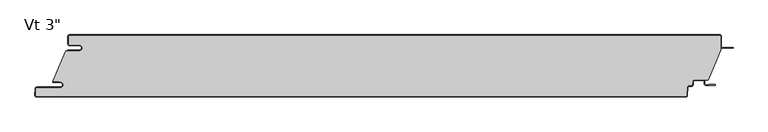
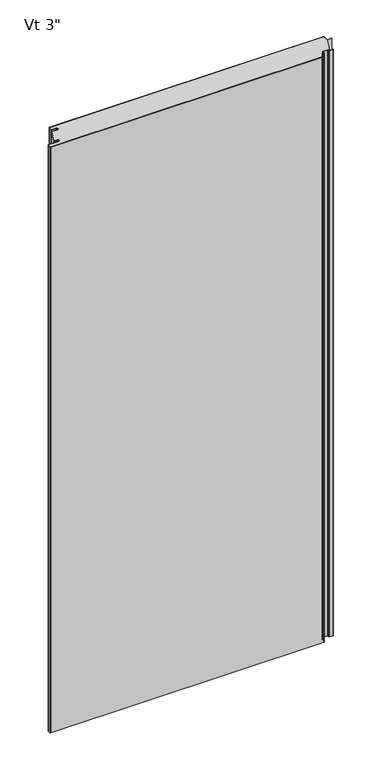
"""IFC4 building model written with IfcOpenShell, lengths in millimetres: plate geometry."""

import ifcopenshell
import ifcopenshell.guid

model = None  # the IFC model being written
_history = None  # IfcOwnerHistory: only IFC2X3 demands one
_inside = {}  # id of a spatial element -> (the spatial element, [elements in it])
_under = {}  # id of a project, library or spatial element -> (it, [spatial elements below it])
_declared = {}  # id of a project -> (the project, [libraries it declares])
_typed = {}  # id of a type object -> (the type object, [elements of that type])
_made_of = {}  # id of a material, layer set ... -> (it, [elements and type objects made of it])


def new_model(schema):
    """Start an empty IFC model of exactly this schema.

    Asked for "IFC4X3", IfcOpenShell would pick the latest addendum, in which some entities
    have other attributes; the version numbers below select the first issue.
    IFC2X3 requires an IfcOwnerHistory on every rooted entity: one is made here for all.
    """
    global model, _history
    if schema == "IFC4X3":
        model = ifcopenshell.file(schema_version=(4, 3, 0, 0))
    else:
        model = ifcopenshell.file(schema=schema)
    _inside.clear()
    _under.clear()
    _declared.clear()
    _typed.clear()
    _made_of.clear()
    _history = None
    if model.schema == "IFC2X3":
        org = make("IfcOrganization", Name="unknown")
        user = make(
            "IfcPersonAndOrganization",
            ThePerson=make("IfcPerson", FamilyName="unknown"),
            TheOrganization=org,
        )
        app = make(
            "IfcApplication",
            ApplicationDeveloper=org,
            Version="unknown",
            ApplicationFullName="unknown",
            ApplicationIdentifier="unknown",
        )
        _history = make(
            "IfcOwnerHistory",
            OwningUser=user,
            OwningApplication=app,
            ChangeAction="ADDED",
            CreationDate=0,
        )
    return model


def make(cls, **values):
    """One entity of the class cls with the attributes given. An attribute that is None is left unset."""
    return model.create_entity(
        cls, **{name: value for name, value in values.items() if value is not None}
    )


def rooted(cls, **values):
    """An entity with a GlobalId (a new one), such as an element, a storey or a relation."""
    return make(cls, GlobalId=ifcopenshell.guid.new(), OwnerHistory=_history, **values)


def si_unit(unit_type, name, prefix=None):
    """IfcSIUnit, for example si_unit("LENGTHUNIT", "METRE", prefix="MILLI")."""
    return make("IfcSIUnit", UnitType=unit_type, Prefix=prefix, Name=name)


def assignment(units):
    """IfcUnitAssignment: the units of a project."""
    return None if units is None else make("IfcUnitAssignment", Units=units)


def point(xyz):
    """IfcCartesianPoint."""
    return None if xyz is None else make("IfcCartesianPoint", Coordinates=xyz)


def direction(xyz):
    """IfcDirection."""
    return None if xyz is None else make("IfcDirection", DirectionRatios=xyz)


def frame(location, z_axis=None, x_axis=None):
    """IfcAxis2Placement3D, a coordinate frame: its origin and axes. An axis left out is left unset."""
    return make(
        "IfcAxis2Placement3D",
        Location=point(location),
        Axis=direction(z_axis),
        RefDirection=direction(x_axis),
    )


def frame_2d(location, x_axis=None):
    """IfcAxis2Placement2D, a coordinate frame in the plane: its origin and x axis."""
    return make(
        "IfcAxis2Placement2D", Location=point(location), RefDirection=direction(x_axis)
    )


def origin():
    """The frame at (0, 0, 0) with its axes left unset."""
    return frame((0.0, 0.0, 0.0))


def origin_with_axes():
    """The frame at (0, 0, 0) with the z axis (0, 0, 1) and the x axis (1, 0, 0) written out."""
    return frame((0.0, 0.0, 0.0), z_axis=(0.0, 0.0, 1.0), x_axis=(1.0, 0.0, 0.0))


def place(relative_to, where):
    """IfcLocalPlacement: puts the frame where relative to a parent placement (None: the world)."""
    return make(
        "IfcLocalPlacement", PlacementRelTo=relative_to, RelativePlacement=where
    )


def context(
    kind, dimensions, precision=None, world=None, true_north=None, identifier=None
):
    """IfcGeometricRepresentationContext, for example the 3D "Model" context."""
    return make(
        "IfcGeometricRepresentationContext",
        ContextIdentifier=identifier,
        ContextType=kind,
        CoordinateSpaceDimension=dimensions,
        Precision=precision,
        WorldCoordinateSystem=world,
        TrueNorth=true_north,
    )


def project(units=None, contexts=None):
    """IfcProject with its units and contexts."""
    return rooted(
        "IfcProject",
        Name="project",
        RepresentationContexts=contexts,
        UnitsInContext=assignment(units),
    )


def spatial(cls, under=None, at=None, **own):
    """A site, building, storey or space (cls), placed at a placement, below another one or the project."""
    s = rooted(cls, ObjectPlacement=at, **own)
    if under is not None:
        _under.setdefault(under.id(), (under, []))[1].append(s)
    return s


def polyline(points):
    """IfcPolyline through the points."""
    return make("IfcPolyline", Points=[point(p) for p in points])


def circle_curve(where, radius):
    """IfcCircle in the frame where."""
    return make("IfcCircle", Position=where, Radius=radius)


def ellipse_curve(where, semi_axis1, semi_axis2):
    """IfcEllipse in the frame where."""
    return make(
        "IfcEllipse", Position=where, SemiAxis1=semi_axis1, SemiAxis2=semi_axis2
    )


def trimmed(basis, trim1, trim2, sense, master):
    """IfcTrimmedCurve: the piece of a basis curve between two trims."""
    return make(
        "IfcTrimmedCurve",
        BasisCurve=basis,
        Trim1=trim1,
        Trim2=trim2,
        SenseAgreement=sense,
        MasterRepresentation=master,
    )


def segment(curve, same_sense, transition):
    """IfcCompositeCurveSegment."""
    return make(
        "IfcCompositeCurveSegment",
        Transition=transition,
        SameSense=same_sense,
        ParentCurve=curve,
    )


def composite_curve(segments, self_intersect=None):
    """IfcCompositeCurve: segments joined end to end."""
    return make("IfcCompositeCurve", Segments=segments, SelfIntersect=self_intersect)


def outline(outer, holes=None, kind="AREA"):
    """IfcArbitraryClosedProfileDef: a profile drawn as a closed curve; with holes, ...WithVoids."""
    if holes is None:
        return make("IfcArbitraryClosedProfileDef", ProfileType=kind, OuterCurve=outer)
    return make(
        "IfcArbitraryProfileDefWithVoids",
        ProfileType=kind,
        OuterCurve=outer,
        InnerCurves=holes,
    )


def extrude(swept, where, along, depth):
    """IfcExtrudedAreaSolid: the profile swept, set in the frame where, extruded along a direction by depth."""
    return make(
        "IfcExtrudedAreaSolid",
        SweptArea=swept,
        Position=where,
        ExtrudedDirection=direction(along),
        Depth=depth,
    )


def shape(context_of_items, identifier, shape_type, items):
    """IfcShapeRepresentation: the items that make up one representation, for example the "Body"."""
    return make(
        "IfcShapeRepresentation",
        ContextOfItems=context_of_items,
        RepresentationIdentifier=identifier,
        RepresentationType=shape_type,
        Items=items,
    )


def source(mapping_origin, context_of_items, identifier, shape_type, items):
    """IfcRepresentationMap: a shape defined once, which mapped items show again and again."""
    return make(
        "IfcRepresentationMap",
        MappingOrigin=mapping_origin,
        MappedRepresentation=shape(context_of_items, identifier, shape_type, items),
    )


def transform(
    local_origin,
    x_axis=None,
    y_axis=None,
    z_axis=None,
    scale=None,
    scale2=None,
    scale3=None,
    uniform=True,
):
    """IfcCartesianTransformationOperator3D, or its non-uniform kind. x_axis, y_axis, z_axis: its Axis1, 2, 3."""
    if uniform:
        return make(
            "IfcCartesianTransformationOperator3D",
            Axis1=direction(x_axis),
            Axis2=direction(y_axis),
            LocalOrigin=point(local_origin),
            Scale=scale,
            Axis3=direction(z_axis),
        )
    return make(
        "IfcCartesianTransformationOperator3DnonUniform",
        Axis1=direction(x_axis),
        Axis2=direction(y_axis),
        LocalOrigin=point(local_origin),
        Scale=scale,
        Axis3=direction(z_axis),
        Scale2=scale2,
        Scale3=scale3,
    )


def mapped(mapping_source, mapping_target):
    """IfcMappedItem: shows the shape of a source again, moved by a transform."""
    return make(
        "IfcMappedItem", MappingSource=mapping_source, MappingTarget=mapping_target
    )


def made_of(thing, what):
    """Note that an element or type object is made of a material, layer set ...; save() writes the relation."""
    if what is not None:
        _made_of.setdefault(what.id(), (what, []))[1].append(thing)
    return thing


def element(
    cls,
    number,
    at=None,
    inside=None,
    cuts=None,
    type_object=None,
    material=None,
    context=None,
    identifier="Body",
    shape_type=None,
    held_by="IfcProductDefinitionShape",
    body=None,
    shapes=None,
    **own,
):
    """One element of the class cls, such as IfcWall. Its Tag is "e" and its number.

    at: its placement. inside: the storey or other place that contains it. cuts: it is an
    opening in that element (IfcRelVoidsElement). A single representation is given by context,
    identifier, shape_type and body (its items); several are given by shapes. held_by: the class
    of the entity that holds the representations. save() writes the other relations.
    """
    e = rooted(cls, Tag="e%d" % number, ObjectPlacement=at, **own)
    if body is not None:
        shapes = [shape(context, identifier, shape_type, body)]
    if shapes is not None:
        e.Representation = make(held_by, Representations=shapes)
    if inside is not None:
        _inside.setdefault(inside.id(), (inside, []))[1].append(e)
    if cuts is not None:
        rooted(
            "IfcRelVoidsElement", RelatingBuildingElement=cuts, RelatedOpeningElement=e
        )
    if type_object is not None:
        _typed.setdefault(type_object.id(), (type_object, []))[1].append(e)
    return made_of(e, material)


def aggregate(whole, parts):
    """IfcRelAggregates: a whole, such as a stair, and the parts it consists of."""
    return rooted("IfcRelAggregates", RelatingObject=whole, RelatedObjects=parts)


def save(model, path):
    """Write the relations noted so far, then the file.

    IfcRelAggregates (storeys below a building ...), IfcRelContainedInSpatialStructure (elements
    in a storey), IfcRelDefinesByType, IfcRelAssociatesMaterial and IfcRelDeclares: one each for
    every whole, place, type object, material and project.
    """
    for whole, parts in _under.values():
        aggregate(whole, parts)
    for where, things in _inside.values():
        rooted(
            "IfcRelContainedInSpatialStructure",
            RelatedElements=things,
            RelatingStructure=where,
        )
    for kind, things in _typed.values():
        rooted("IfcRelDefinesByType", RelatedObjects=things, RelatingType=kind)
    for what, things in _made_of.values():
        rooted("IfcRelAssociatesMaterial", RelatedObjects=things, RelatingMaterial=what)
    for by, libraries in _declared.values():
        rooted("IfcRelDeclares", RelatingContext=by, RelatedDefinitions=libraries)
    model.write(path)


def plane_surface(at):
    """IfcPlane: the flat surface through the origin of the frame at, square to its z axis."""
    return make("IfcPlane", Position=at)


def cylinder_surface(at, radius):
    """IfcCylindricalSurface: all points at the distance radius from the z axis of the frame at."""
    return make("IfcCylindricalSurface", Position=at, Radius=radius)


def revolved_surface(curve, axis_point, axis_direction):
    """IfcSurfaceOfRevolution: the curve turned about the line through axis_point along axis_direction."""
    return make(
        "IfcSurfaceOfRevolution",
        SweptCurve=make("IfcArbitraryOpenProfileDef", ProfileType="CURVE", Curve=curve),
        AxisPosition=make("IfcAxis1Placement", Location=point(axis_point), Axis=direction(axis_direction)),
    )


def extruded_surface(curve, direction_of_extrusion, depth):
    """IfcSurfaceOfLinearExtrusion: the curve pushed along a direction by depth."""
    return make(
        "IfcSurfaceOfLinearExtrusion",
        SweptCurve=make("IfcArbitraryOpenProfileDef", ProfileType="CURVE", Curve=curve),
        ExtrudedDirection=direction(direction_of_extrusion),
        Depth=depth,
    )


def advanced_brep(points, edges, surfaces, faces):
    """IfcAdvancedBrep: a solid bounded by faces that lie on surfaces and meet in shared edges.

    An edge is (start, end): straight between two places in points (the first is 0);
    or (start, end, curve); or (start, end, curve, False) where it runs against its curve.
    A face is (place in surfaces, loops), or (place, loops, False) where it looks against
    its surface's normal. A loop lists edges by number (the first is 1), with a minus sign
    where the edge is run from its end to its start. The first loop is the outer one.
    """
    corners = [point(p) for p in points]
    vertices = [make("IfcVertexPoint", VertexGeometry=c) for c in corners]
    made = []
    for start, end, *more in edges:
        made.append(
            make(
                "IfcEdgeCurve",
                EdgeStart=vertices[start],
                EdgeEnd=vertices[end],
                EdgeGeometry=more[0] if more else make("IfcPolyline", Points=[corners[start], corners[end]]),
                SameSense=more[1] if len(more) > 1 else True,
            )
        )
    hull = []
    for where, loops, *sense in faces:
        bounds = []
        for j, loop in enumerate(loops):
            ring = [make("IfcOrientedEdge", EdgeElement=made[abs(k) - 1], Orientation=k > 0) for k in loop]
            bounds.append(
                make(
                    "IfcFaceOuterBound" if j == 0 else "IfcFaceBound",
                    Bound=make("IfcEdgeLoop", EdgeList=ring),
                    Orientation=True,
                )
            )
        hull.append(make("IfcAdvancedFace", Bounds=bounds, FaceSurface=surfaces[where], SameSense=sense[0] if sense else True))
    return make("IfcAdvancedBrep", Outer=make("IfcClosedShell", CfsFaces=hull))


def plate_fcef75d7(model_context):
    return source(origin(), model_context, "Body", "SolidModel", [
        extrude(outline(composite_curve([segment(polyline([(-514.35625, -16.4625), (-530.23125, -16.4625)]), True, "CONTINUOUS"), segment(trimmed(circle_curve(frame_2d((-530.23125, -15.08125)), 1.38125), [point((-530.23125, -16.4625))], [point((-531.6125, -15.08125))], False, "CARTESIAN"), True, "CONTINUOUS"), segment(polyline([(-531.6125, -15.08125), (-531.6125, -2.38125)]), True, "CONTINUOUS"), segment(trimmed(circle_curve(frame_2d((-530.23125, -2.38125)), 1.38125), [point((-531.6125, -2.38125))], [point((-530.23125, -1.0))], False, "CARTESIAN"), True, "CONTINUOUS"), segment(polyline([(-530.23125, -1.0), (530.21875, -1.0)]), True, "CONTINUOUS"), segment(trimmed(circle_curve(frame_2d((530.21875, -2.38125)), 1.38125), [point((530.21875, -1.0))], [point((531.6, -2.38125))], False, "CARTESIAN"), True, "CONTINUOUS"), segment(polyline([(531.6, -2.38125), (531.6, -24.9057308), (510.7830434, -73.6125), (488.3415783, -73.6125)]), True, "CONTINUOUS"), segment(trimmed(circle_curve(frame_2d((488.3415783, -76.2)), 2.5875), [point((488.3415783, -73.6125))], [point((485.7576244, -76.0645807))], True, "CARTESIAN"), True, "CONTINUOUS"), segment(polyline([(485.7576244, -76.0645807), (485.4555481, -81.828539)]), True, "CONTINUOUS"), segment(trimmed(circle_curve(frame_2d((484.0761911, -81.75625)), 1.38125), [point((485.4555481, -81.828539))], [point((484.0761911, -83.1375))], False, "CARTESIAN"), True, "CONTINUOUS"), segment(polyline([(484.0761911, -83.1375), (479.4448847, -83.1375)]), True, "CONTINUOUS"), segment(trimmed(circle_curve(frame_2d((479.4448847, -85.725)), 2.5875), [point((479.4448847, -83.1375))], [point((476.8609307, -85.5895807))], True, "CARTESIAN"), True, "CONTINUOUS"), segment(polyline([(476.8609307, -85.5895807), (476.1428677, -99.291039)]), True, "CONTINUOUS"), segment(trimmed(circle_curve(frame_2d((474.7635107, -99.21875)), 1.38125), [point((476.1428677, -99.291039))], [point((474.7635107, -100.6))], False, "CARTESIAN"), True, "CONTINUOUS"), segment(polyline([(474.7635107, -100.6), (-584.0924535, -100.6)]), True, "CONTINUOUS"), segment(trimmed(circle_curve(frame_2d((-584.0924535, -99.21875)), 1.38125), [point((-584.0924535, -100.6))], [point((-585.4718106, -99.146461))], False, "CARTESIAN"), True, "CONTINUOUS"), segment(polyline([(-585.4718106, -99.146461), (-584.8894291, -88.033961)]), True, "CONTINUOUS"), segment(trimmed(circle_curve(frame_2d((-583.5100721, -88.10625)), 1.38125), [point((-584.8894291, -88.033961))], [point((-583.5100721, -86.725))], False, "CARTESIAN"), True, "CONTINUOUS"), segment(polyline([(-583.5100721, -86.725), (-545.3267674, -86.725)]), True, "CONTINUOUS"), segment(trimmed(circle_curve(frame_2d((-545.3267674, -81.75625)), 4.96875), [point((-545.3267674, -86.725))], [point((-545.3267674, -76.7875))], True, "CARTESIAN"), True, "CONTINUOUS"), segment(polyline([(-545.3267674, -76.7875), (-546.9142674, -76.99375), (-546.9142674, -76.2), (-556.425, -76.2), (-556.425, -74.6157227), (-536.5385922, -26.4), (-514.35625, -26.4)]), True, "CONTINUOUS"), segment(trimmed(circle_curve(frame_2d((-514.35625, -21.43125)), 4.96875), [point((-514.35625, -26.4))], [point((-514.35625, -16.4625))], True, "CARTESIAN"), True, "CONTINUOUS")], self_intersect=False)), origin_with_axes(), (0.0, 0.0, 1.0), 2400.0),
        extrude(outline(composite_curve([segment(polyline([(-532.6125, -25.4), (-514.35625, -25.4)]), True, "CONTINUOUS"), segment(trimmed(circle_curve(frame_2d((-514.35625, -21.43125)), 3.96875), [point((-514.35625, -25.4))], [point((-514.35625, -17.4625))], True, "CARTESIAN"), True, "CONTINUOUS"), segment(polyline([(-514.35625, -17.4625), (-530.23125, -17.4625)]), True, "CONTINUOUS"), segment(trimmed(circle_curve(frame_2d((-530.23125, -15.08125)), 2.38125), [point((-530.23125, -17.4625))], [point((-532.6125, -15.08125))], False, "CARTESIAN"), True, "CONTINUOUS"), segment(polyline([(-532.6125, -15.08125), (-532.6125, -2.38125)]), True, "CONTINUOUS"), segment(trimmed(circle_curve(frame_2d((-530.23125, -2.38125)), 2.38125), [point((-532.6125, -2.38125))], [point((-530.23125, 0.0))], False, "CARTESIAN"), True, "CONTINUOUS"), segment(polyline([(-530.23125, 0.0), (530.21875, 0.0)]), True, "CONTINUOUS"), segment(trimmed(circle_curve(frame_2d((530.21875, -2.38125)), 2.38125), [point((530.21875, 0.0))], [point((532.6, -2.38125))], False, "CARTESIAN"), True, "CONTINUOUS"), segment(polyline([(532.6, -2.38125), (532.6, -19.446875)]), True, "CONTINUOUS"), segment(trimmed(circle_curve(frame_2d((534.1875, -19.446875)), 1.5875), [point((532.6, -19.446875))], [point((534.1875, -21.034375))], True, "CARTESIAN"), True, "CONTINUOUS"), segment(polyline([(534.1875, -21.034375), (551.65, -21.034375), (551.65, -22.034375), (534.1875, -22.034375)]), True, "CONTINUOUS"), segment(trimmed(circle_curve(frame_2d((534.1875, -19.446875)), 2.5875), [point((534.1875, -22.034375))], [point((531.6, -19.446875))], False, "CARTESIAN"), True, "CONTINUOUS"), segment(polyline([(531.6, -19.446875), (531.6, -2.38125)]), True, "CONTINUOUS"), segment(trimmed(circle_curve(frame_2d((530.21875, -2.38125)), 1.38125), [point((531.6, -2.38125))], [point((530.21875, -1.0))], True, "CARTESIAN"), True, "CONTINUOUS"), segment(polyline([(530.21875, -1.0), (-530.23125, -1.0)]), True, "CONTINUOUS"), segment(trimmed(circle_curve(frame_2d((-530.23125, -2.38125)), 1.38125), [point((-530.23125, -1.0))], [point((-531.6125, -2.38125))], True, "CARTESIAN"), True, "CONTINUOUS"), segment(polyline([(-531.6125, -2.38125), (-531.6125, -15.08125)]), True, "CONTINUOUS"), segment(trimmed(circle_curve(frame_2d((-530.23125, -15.08125)), 1.38125), [point((-531.6125, -15.08125))], [point((-530.23125, -16.4625))], True, "CARTESIAN"), True, "CONTINUOUS"), segment(polyline([(-530.23125, -16.4625), (-514.35625, -16.4625)]), True, "CONTINUOUS"), segment(trimmed(circle_curve(frame_2d((-514.35625, -21.43125)), 4.96875), [point((-514.35625, -16.4625))], [point((-514.35625, -26.4))], False, "CARTESIAN"), True, "CONTINUOUS"), segment(polyline([(-514.35625, -26.4), (-532.6125, -26.4), (-532.6125, -25.4)]), True, "CONTINUOUS")], self_intersect=False)), origin_with_axes(), (0.0, 0.0, 1.0), 2400.0),
        advanced_brep(
        [(-556.6377049, -76.2, 2400.0), (-556.6377049, -77.7875, 2400.0), (-545.3267674, -77.7875, 2400.0), (-545.3267674, -85.725, 2400.0), (-583.5100721, -85.725, 2400.0), (-585.8880586, -87.981625, 2400.0), (-586.4704401, -99.094125, 2400.0), (-584.0924535, -101.6, 2400.0), (474.7635107, -101.6, 2400.0), (477.1414973, -99.343375, 2400.0), (477.8595603, -85.6419167, 2400.0), (479.4448847, -84.1375, 2400.0), (484.0761911, -84.1375, 2400.0), (486.4541776, -81.880875, 2400.0), (486.7562539, -76.1169167, 2400.0), (488.3415783, -74.6125, 2400.0), (503.2169826, -74.6125, 2400.0), (504.8044826, -76.2, 2400.0), (504.8044826, -80.3671875, 2400.0), (507.1857326, -82.7484375, 2400.0), (521.6773532, -82.7484375, 2400.0), (521.6773532, -80.9546875, 2400.0), (511.9482326, -80.9546875, 2400.0), (511.9482326, -81.7484375, 2400.0), (507.1857326, -81.7484375, 2400.0), (505.8044826, -80.3671875, 2400.0), (505.8044826, -76.2, 2400.0), (503.2169826, -73.6125, 2400.0), (488.3415783, -73.6125, 2400.0), (485.7576244, -76.0645807, 2400.0), (485.4555481, -81.828539, 2400.0), (484.0761911, -83.1375, 2400.0), (479.4448847, -83.1375, 2400.0), (476.8609307, -85.5895807, 2400.0), (476.1428677, -99.291039, 2400.0), (474.7635107, -100.6, 2400.0), (-584.0924535, -100.6, 2400.0), (-585.4718106, -99.146461, 2400.0), (-584.8894291, -88.033961, 2400.0), (-583.5100721, -86.725, 2400.0), (-545.3267674, -86.725, 2400.0), (-545.3267674, -76.7875, 2400.0), (-546.9142674, -76.99375, 2400.0), (-546.9142674, -76.2, 2400.0), (-556.6377049, -76.2, 0.0), (-546.9142674, -76.2, 0.0), (-546.9142674, -76.99375, 0.0), (-545.3267674, -76.7875, 0.0), (-545.3267674, -86.725, 0.0), (-583.5100721, -86.725, 0.0), (-584.8894291, -88.033961, 0.0), (-585.4718106, -99.146461, 0.0), (-584.0924535, -100.6, 0.0), (474.7635107, -100.6, 0.0), (476.1428677, -99.291039, 0.0), (476.8609307, -85.5895807, 0.0), (479.4448847, -83.1375, 0.0), (484.0761911, -83.1375, 0.0), (485.4555481, -81.828539, 0.0), (485.7576244, -76.0645807, 0.0), (488.3415783, -73.6125, 0.0), (503.2169826, -73.6125, 0.0), (505.8044826, -76.2, 0.0), (505.8044826, -80.3671875, 0.0), (507.1857326, -81.7484375, 0.0), (511.9482326, -81.7484375, 0.0), (511.9482326, -80.9546875, 0.0), (521.6773532, -80.9546875, 0.0), (521.6773532, -82.7484375, 0.0), (507.1857326, -82.7484375, 0.0), (504.8044826, -80.3671875, 0.0), (504.8044826, -76.2, 0.0), (503.2169826, -74.6125, 0.0), (488.3415783, -74.6125, 0.0), (486.7562539, -76.1169167, 0.0), (486.4541776, -81.880875, 0.0), (484.0761911, -84.1375, 0.0), (479.4448847, -84.1375, 0.0), (477.8595603, -85.6419167, 0.0), (477.1414973, -99.343375, 0.0), (474.7635107, -101.6, 0.0), (-584.0924535, -101.6, 0.0), (-586.4704401, -99.094125, 0.0), (-585.8880586, -87.981625, 0.0), (-583.5100721, -85.725, 0.0), (-545.3267674, -85.725, 0.0), (-545.3267674, -77.7875, 0.0), (-556.6377049, -77.7875, 0.0)],
        [
            (0, 1, circle_curve(frame((-556.6377049, -76.99375, 2400.0), z_axis=(0.0, 0.0, 1.0), x_axis=(-1.0, 0.0, 0.0)), 0.79375)),
            (1, 2),
            (2, 3, circle_curve(frame((-545.3267674, -81.75625, 2400.0), z_axis=(0.0, 0.0, -1.0), x_axis=(-1.0, 0.0, 0.0)), 3.96875)),
            (3, 4),
            (4, 5, circle_curve(frame((-583.5100721, -88.10625, 2400.0), z_axis=(0.0, 0.0, 1.0), x_axis=(-1.0, 0.0, 0.0)), 2.38125)),
            (5, 6),
            (6, 7, circle_curve(frame((-584.0924535, -99.21875, 2400.0), z_axis=(0.0, 0.0, 1.0), x_axis=(-1.0, 0.0, 0.0)), 2.38125)),
            (7, 8),
            (8, 9, circle_curve(frame((474.7635107, -99.21875, 2400.0), z_axis=(0.0, 0.0, 1.0), x_axis=(-1.0, 0.0, 0.0)), 2.38125)),
            (9, 10),
            (10, 11, circle_curve(frame((479.4448847, -85.725, 2400.0), z_axis=(0.0, 0.0, -1.0), x_axis=(-1.0, 0.0, 0.0)), 1.5875)),
            (11, 12),
            (12, 13, circle_curve(frame((484.0761911, -81.75625, 2400.0), z_axis=(0.0, 0.0, 1.0), x_axis=(-1.0, 0.0, 0.0)), 2.38125)),
            (13, 14),
            (14, 15, circle_curve(frame((488.3415783, -76.2, 2400.0), z_axis=(0.0, 0.0, -1.0), x_axis=(-1.0, 0.0, 0.0)), 1.5875)),
            (15, 16),
            (16, 17, circle_curve(frame((503.2169826, -76.2, 2400.0), z_axis=(0.0, 0.0, -1.0), x_axis=(-1.0, 0.0, 0.0)), 1.5875)),
            (17, 18),
            (18, 19, circle_curve(frame((507.1857326, -80.3671875, 2400.0), z_axis=(0.0, 0.0, 1.0), x_axis=(-1.0, 0.0, 0.0)), 2.38125)),
            (19, 20),
            (20, 21, ellipse_curve(frame((521.6773532, -81.8515625, 2400.0), z_axis=(0.0, 0.0, 1.0), x_axis=(0.0, 1.0, 0.0)), 0.896875, 0.7852275)),
            (21, 22),
            (22, 23),
            (23, 24),
            (24, 25, circle_curve(frame((507.1857326, -80.3671875, 2400.0), z_axis=(0.0, 0.0, -1.0), x_axis=(-1.0, 0.0, 0.0)), 1.38125)),
            (25, 26),
            (26, 27, circle_curve(frame((503.2169826, -76.2, 2400.0), z_axis=(0.0, 0.0, 1.0), x_axis=(-1.0, 0.0, 0.0)), 2.5875)),
            (27, 28),
            (28, 29, circle_curve(frame((488.3415783, -76.2, 2400.0), z_axis=(0.0, 0.0, 1.0), x_axis=(-1.0, 0.0, 0.0)), 2.5875)),
            (29, 30),
            (30, 31, circle_curve(frame((484.0761911, -81.75625, 2400.0), z_axis=(0.0, 0.0, -1.0), x_axis=(-1.0, 0.0, 0.0)), 1.38125)),
            (31, 32),
            (32, 33, circle_curve(frame((479.4448847, -85.725, 2400.0), z_axis=(0.0, 0.0, 1.0), x_axis=(-1.0, 0.0, 0.0)), 2.5875)),
            (33, 34),
            (34, 35, circle_curve(frame((474.7635107, -99.21875, 2400.0), z_axis=(0.0, 0.0, -1.0), x_axis=(-1.0, 0.0, 0.0)), 1.38125)),
            (35, 36),
            (36, 37, circle_curve(frame((-584.0924535, -99.21875, 2400.0), z_axis=(0.0, 0.0, -1.0), x_axis=(-1.0, 0.0, 0.0)), 1.38125)),
            (37, 38),
            (38, 39, circle_curve(frame((-583.5100721, -88.10625, 2400.0), z_axis=(0.0, 0.0, -1.0), x_axis=(-1.0, 0.0, 0.0)), 1.38125)),
            (39, 40),
            (40, 41, circle_curve(frame((-545.3267674, -81.75625, 2400.0), z_axis=(0.0, 0.0, 1.0), x_axis=(-1.0, 0.0, 0.0)), 4.96875)),
            (41, 42),
            (42, 43),
            (43, 0),
            (44, 45),
            (45, 46),
            (46, 47),
            (47, 48, circle_curve(frame((-545.3267674, -81.75625, 0.0), z_axis=(0.0, 0.0, -1.0), x_axis=(-1.0, 0.0, 0.0)), 4.96875)),
            (48, 49),
            (49, 50, circle_curve(frame((-583.5100721, -88.10625, 0.0), z_axis=(0.0, 0.0, 1.0), x_axis=(-1.0, 0.0, 0.0)), 1.38125)),
            (50, 51),
            (51, 52, circle_curve(frame((-584.0924535, -99.21875, 0.0), z_axis=(0.0, 0.0, 1.0), x_axis=(-1.0, 0.0, 0.0)), 1.38125)),
            (52, 53),
            (53, 54, circle_curve(frame((474.7635107, -99.21875, 0.0), z_axis=(0.0, 0.0, 1.0), x_axis=(-1.0, 0.0, 0.0)), 1.38125)),
            (54, 55),
            (55, 56, circle_curve(frame((479.4448847, -85.725, 0.0), z_axis=(0.0, 0.0, -1.0), x_axis=(-1.0, 0.0, 0.0)), 2.5875)),
            (56, 57),
            (57, 58, circle_curve(frame((484.0761911, -81.75625, 0.0), z_axis=(0.0, 0.0, 1.0), x_axis=(-1.0, 0.0, 0.0)), 1.38125)),
            (58, 59),
            (59, 60, circle_curve(frame((488.3415783, -76.2, 0.0), z_axis=(0.0, 0.0, -1.0), x_axis=(-1.0, 0.0, 0.0)), 2.5875)),
            (60, 61),
            (61, 62, circle_curve(frame((503.2169826, -76.2, 0.0), z_axis=(0.0, 0.0, -1.0), x_axis=(-1.0, 0.0, 0.0)), 2.5875)),
            (62, 63),
            (63, 64, circle_curve(frame((507.1857326, -80.3671875, 0.0), z_axis=(0.0, 0.0, 1.0), x_axis=(-1.0, 0.0, 0.0)), 1.38125)),
            (64, 65),
            (65, 66),
            (66, 67),
            (67, 68, ellipse_curve(frame((521.6773532, -81.8515625, 0.0), z_axis=(0.0, 0.0, -1.0), x_axis=(0.0, 1.0, 0.0)), 0.896875, 0.7852275)),
            (68, 69),
            (69, 70, circle_curve(frame((507.1857326, -80.3671875, 0.0), z_axis=(0.0, 0.0, -1.0), x_axis=(-1.0, 0.0, 0.0)), 2.38125)),
            (70, 71),
            (71, 72, circle_curve(frame((503.2169826, -76.2, 0.0), z_axis=(0.0, 0.0, 1.0), x_axis=(-1.0, 0.0, 0.0)), 1.5875)),
            (72, 73),
            (73, 74, circle_curve(frame((488.3415783, -76.2, 0.0), z_axis=(0.0, 0.0, 1.0), x_axis=(-1.0, 0.0, 0.0)), 1.5875)),
            (74, 75),
            (75, 76, circle_curve(frame((484.0761911, -81.75625, 0.0), z_axis=(0.0, 0.0, -1.0), x_axis=(-1.0, 0.0, 0.0)), 2.38125)),
            (76, 77),
            (77, 78, circle_curve(frame((479.4448847, -85.725, 0.0), z_axis=(0.0, 0.0, 1.0), x_axis=(-1.0, 0.0, 0.0)), 1.5875)),
            (78, 79),
            (79, 80, circle_curve(frame((474.7635107, -99.21875, 0.0), z_axis=(0.0, 0.0, -1.0), x_axis=(-1.0, 0.0, 0.0)), 2.38125)),
            (80, 81),
            (81, 82, circle_curve(frame((-584.0924535, -99.21875, 0.0), z_axis=(0.0, 0.0, -1.0), x_axis=(-1.0, 0.0, 0.0)), 2.38125)),
            (82, 83),
            (83, 84, circle_curve(frame((-583.5100721, -88.10625, 0.0), z_axis=(0.0, 0.0, -1.0), x_axis=(-1.0, 0.0, 0.0)), 2.38125)),
            (84, 85),
            (85, 86, circle_curve(frame((-545.3267674, -81.75625, 0.0), z_axis=(0.0, 0.0, 1.0), x_axis=(-1.0, 0.0, 0.0)), 3.96875)),
            (86, 87),
            (87, 44, circle_curve(frame((-556.6377049, -76.99375, 0.0), z_axis=(0.0, 0.0, -1.0), x_axis=(-1.0, 0.0, 0.0)), 0.79375)),
            (43, 45),
            (44, 0),
            (87, 1),
            (86, 2),
            (85, 3),
            (84, 4),
            (83, 5),
            (82, 6),
            (81, 7),
            (80, 8),
            (79, 9),
            (78, 10),
            (77, 11),
            (76, 12),
            (75, 13),
            (74, 14),
            (73, 15),
            (38, 50),
            (49, 39),
            (37, 51),
            (36, 52),
            (35, 53),
            (34, 54),
            (33, 55),
            (32, 56),
            (31, 57),
            (30, 58),
            (29, 59),
            (28, 60),
            (23, 65),
            (64, 24),
            (63, 25),
            (62, 26),
            (72, 16),
            (71, 17),
            (70, 18),
            (69, 19),
            (68, 20),
            (27, 61),
            (48, 40),
            (47, 41),
            (42, 46),
            (22, 66),
            (21, 67),
        ],
        [
            plane_surface(frame((-0.00625, -101.6, 2400.0), z_axis=(0.0, 0.0, 1.0), x_axis=(0.0, -1.0, 0.0))),
            plane_surface(frame((-0.00625, -101.6, 0.0), z_axis=(0.0, 0.0, -1.0), x_axis=(0.0, -1.0, 0.0))),
            plane_surface(frame((-556.6377049, -76.2, 2400.0), z_axis=(0.0, 1.0, 0.0), x_axis=(0.0, 0.0, -1.0))),
            cylinder_surface(frame((-556.6377049, -76.99375, 2400.0), z_axis=(0.0, 0.0, 1.0), x_axis=(-1.0, 0.0, 0.0)), 0.79375),
            plane_surface(frame((-545.3267674, -77.7875, 2400.0), z_axis=(0.0, -1.0, 0.0), x_axis=(0.0, 0.0, -1.0))),
            revolved_surface(polyline([(-549.2955174, -81.75625, 0.0), (-549.2955174, -81.75625, 2400.0)]), (-545.3267674, -81.75625, 2400.0), (0.0, 0.0, -1.0)),
            plane_surface(frame((-583.5100721, -85.725, 2400.0), z_axis=(0.0, 1.0, 0.0), x_axis=(0.0, 0.0, -1.0))),
            cylinder_surface(frame((-583.5100721, -88.10625, 2400.0), z_axis=(0.0, 0.0, 1.0), x_axis=(-1.0, 0.0, 0.0)), 2.38125),
            plane_surface(frame((-586.4704401, -99.094125, 2400.0), z_axis=(-0.9986295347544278, 0.052335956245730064, 0.0), x_axis=(0.0, 0.0, -1.0))),
            cylinder_surface(frame((-584.0924535, -99.21875, 2400.0), z_axis=(0.0, 0.0, 1.0), x_axis=(-1.0, 0.0, 0.0)), 2.38125),
            plane_surface(frame((474.7635107, -101.6, 2400.0), z_axis=(0.0, -1.0, 0.0), x_axis=(0.0, 0.0, -1.0))),
            cylinder_surface(frame((474.7635107, -99.21875, 2400.0), z_axis=(0.0, 0.0, 1.0), x_axis=(-1.0, 0.0, 0.0)), 2.38125),
            plane_surface(frame((477.8595603, -85.6419167, 2400.0), z_axis=(0.9986295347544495, -0.05233595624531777, 0.0), x_axis=(0.0, 0.0, -1.0))),
            revolved_surface(polyline([(477.8573847, -85.725, 0.0), (477.8573847, -85.725, 2400.0)]), (479.4448847, -85.725, 2400.0), (0.0, 0.0, -1.0)),
            plane_surface(frame((484.0761911, -84.1375, 2400.0), z_axis=(0.0, -1.0, 0.0), x_axis=(0.0, 0.0, -1.0))),
            cylinder_surface(frame((484.0761911, -81.75625, 2400.0), z_axis=(0.0, 0.0, 1.0), x_axis=(-1.0, 0.0, 0.0)), 2.38125),
            plane_surface(frame((486.7562539, -76.1169167, 2400.0), z_axis=(0.9986295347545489, -0.05233595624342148, 0.0), x_axis=(0.0, 0.0, -1.0))),
            revolved_surface(polyline([(486.7540783, -76.2, 0.0), (486.7540783, -76.2, 2400.0)]), (488.3415783, -76.2, 2400.0), (0.0, 0.0, -1.0)),
            revolved_surface(polyline([(-584.8913221, -88.10625, 0.0), (-584.8913221, -88.10625, 2400.0)]), (-583.5100721, -88.10625, 2400.0), (0.0, 0.0, -1.0)),
            plane_surface(frame((-584.8894291, -88.033961, 2400.0), z_axis=(0.9986295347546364, -0.05233595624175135, 0.0), x_axis=(0.0, 0.0, -1.0))),
            revolved_surface(polyline([(-585.4737035, -99.21875, 0.0), (-585.4737035, -99.21875, 2400.0)]), (-584.0924535, -99.21875, 2400.0), (0.0, 0.0, -1.0)),
            plane_surface(frame((-584.0924535, -100.6, 2400.0), z_axis=(0.0, 1.0, 0.0), x_axis=(0.0, 0.0, -1.0))),
            revolved_surface(polyline([(473.38226069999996, -99.21875, 0.0), (473.38226069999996, -99.21875, 2400.0)]), (474.7635107, -99.21875, 2400.0), (0.0, 0.0, -1.0)),
            plane_surface(frame((476.1428677, -99.291039, 2400.0), z_axis=(-0.9986295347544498, 0.05233595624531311, 0.0), x_axis=(0.0, 0.0, -1.0))),
            cylinder_surface(frame((479.4448847, -85.725, 2400.0), z_axis=(0.0, 0.0, 1.0), x_axis=(-1.0, 0.0, 0.0)), 2.5875),
            plane_surface(frame((479.4448847, -83.1375, 2400.0), z_axis=(0.0, 1.0, 0.0), x_axis=(0.0, 0.0, -1.0))),
            revolved_surface(polyline([(482.6949411, -81.75625, 0.0), (482.6949411, -81.75625, 2400.0)]), (484.0761911, -81.75625, 2400.0), (0.0, 0.0, -1.0)),
            plane_surface(frame((485.4555481, -81.828539, 2400.0), z_axis=(-0.9986295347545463, 0.05233595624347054, 0.0), x_axis=(0.0, 0.0, -1.0))),
            cylinder_surface(frame((488.3415783, -76.2, 2400.0), z_axis=(0.0, 0.0, 1.0), x_axis=(-1.0, 0.0, 0.0)), 2.5875),
            plane_surface(frame((507.1857326, -81.7484375, 2400.0), z_axis=(0.0, 1.0, 0.0), x_axis=(0.0, 0.0, -1.0))),
            revolved_surface(polyline([(505.8044826, -80.3671875, 0.0), (505.8044826, -80.3671875, 2400.0)]), (507.1857326, -80.3671875, 2400.0), (0.0, 0.0, -1.0)),
            plane_surface(frame((505.8044826, -76.2, 2400.0), z_axis=(1.0, 0.0, 0.0), x_axis=(0.0, 0.0, -1.0))),
            plane_surface(frame((503.2169826, -74.6125, 2400.0), z_axis=(0.0, -1.0, 0.0), x_axis=(0.0, 0.0, -1.0))),
            revolved_surface(polyline([(501.6294826, -76.2, 0.0), (501.6294826, -76.2, 2400.0)]), (503.2169826, -76.2, 2400.0), (0.0, 0.0, -1.0)),
            plane_surface(frame((504.8044826, -80.3671875, 2400.0), z_axis=(-1.0, 0.0, 0.0), x_axis=(0.0, 0.0, -1.0))),
            cylinder_surface(frame((507.1857326, -80.3671875, 2400.0), z_axis=(0.0, 0.0, 1.0), x_axis=(-1.0, 0.0, 0.0)), 2.38125),
            plane_surface(frame((521.6773532, -82.7484375, 2400.0), z_axis=(0.0, -1.0, 0.0), x_axis=(0.0, 0.0, -1.0))),
            plane_surface(frame((488.3415783, -73.6125, 2400.0), z_axis=(0.0, 1.0, 0.0), x_axis=(0.0, 0.0, -1.0))),
            cylinder_surface(frame((503.2169826, -76.2, 2400.0), z_axis=(0.0, 0.0, 1.0), x_axis=(-1.0, 0.0, 0.0)), 2.5875),
            plane_surface(frame((-545.3267674, -86.725, 2400.0), z_axis=(0.0, -1.0, 0.0), x_axis=(0.0, 0.0, -1.0))),
            cylinder_surface(frame((-545.3267674, -81.75625, 2400.0), z_axis=(0.0, 0.0, 1.0), x_axis=(-1.0, 0.0, 0.0)), 4.96875),
            plane_surface(frame((-546.9142674, -76.2, 2400.0), z_axis=(1.0, 0.0, 0.0), x_axis=(0.0, 0.0, -1.0))),
            plane_surface(frame((-546.9142674, -76.99375, 2400.0), z_axis=(-0.128838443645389, 0.9916655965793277, 0.0), x_axis=(0.0, 0.0, -1.0))),
            plane_surface(frame((511.9482326, -81.7484375, 2400.0), z_axis=(-1.0, 0.0, 0.0), x_axis=(0.0, 0.0, -1.0))),
            plane_surface(frame((511.9482326, -80.9546875, 2400.0), z_axis=(0.0, 1.0, 0.0), x_axis=(0.0, 0.0, -1.0))),
            extruded_surface(trimmed(ellipse_curve(frame((521.6773532, -81.8515625, 2400.0), z_axis=(0.0, 0.0, -1.0), x_axis=(0.0, 1.0, 0.0)), 0.896875, 0.7852275), [point((521.6773532, -80.9546875, 2400.0))], [point((521.6773532, -82.7484375, 2400.0))], True, "CARTESIAN"), (0.0, 0.0, -2400.0), 2400.0),
        ],
        [
            (0, [[1, 2, 3, 4, 5, 6, 7, 8, 9, 10, 11, 12, 13, 14, 15, 16, 17, 18, 19, 20, 21, 22, 23, 24, 25, 26, 27, 28, 29, 30, 31, 32, 33, 34, 35, 36, 37, 38, 39, 40, 41, 42, 43, 44]]),
            (1, [[45, 46, 47, 48, 49, 50, 51, 52, 53, 54, 55, 56, 57, 58, 59, 60, 61, 62, 63, 64, 65, 66, 67, 68, 69, 70, 71, 72, 73, 74, 75, 76, 77, 78, 79, 80, 81, 82, 83, 84, 85, 86, 87, 88]]),
            (2, [[89, -45, 90, -44]]),
            (3, [[-90, -88, 91, -1]]),
            (4, [[-91, -87, 92, -2]]),
            (5, [[-92, -86, 93, -3]]),
            (6, [[-93, -85, 94, -4]]),
            (7, [[-94, -84, 95, -5]]),
            (8, [[-95, -83, 96, -6]]),
            (9, [[-96, -82, 97, -7]]),
            (10, [[-97, -81, 98, -8]]),
            (11, [[-98, -80, 99, -9]]),
            (12, [[-99, -79, 100, -10]]),
            (13, [[-100, -78, 101, -11]]),
            (14, [[-101, -77, 102, -12]]),
            (15, [[-102, -76, 103, -13]]),
            (16, [[-103, -75, 104, -14]]),
            (17, [[-104, -74, 105, -15]]),
            (18, [[106, -50, 107, -39]]),
            (19, [[108, -51, -106, -38]]),
            (20, [[109, -52, -108, -37]]),
            (21, [[110, -53, -109, -36]]),
            (22, [[111, -54, -110, -35]]),
            (23, [[112, -55, -111, -34]]),
            (24, [[113, -56, -112, -33]]),
            (25, [[114, -57, -113, -32]]),
            (26, [[115, -58, -114, -31]]),
            (27, [[116, -59, -115, -30]]),
            (28, [[117, -60, -116, -29]]),
            (29, [[118, -65, 119, -24]]),
            (30, [[-119, -64, 120, -25]]),
            (31, [[-120, -63, 121, -26]]),
            (32, [[-105, -73, 122, -16]]),
            (33, [[-122, -72, 123, -17]]),
            (34, [[-123, -71, 124, -18]]),
            (35, [[-124, -70, 125, -19]]),
            (36, [[-125, -69, 126, -20]]),
            (37, [[127, -61, -117, -28]]),
            (38, [[-121, -62, -127, -27]]),
            (39, [[-107, -49, 128, -40]]),
            (40, [[-128, -48, 129, -41]]),
            (41, [[130, -46, -89, -43]]),
            (42, [[-129, -47, -130, -42]]),
            (43, [[131, -66, -118, -23]]),
            (44, [[132, -67, -131, -22]]),
            (45, [[-126, -68, -132, -21]]),
        ],
    ),
    ])


if __name__ == "__main__":
    model = new_model("IFC4")
    model_context = context("Model", 3, world=origin())
    ifc_project = project(units=[si_unit("LENGTHUNIT", "METRE", prefix="MILLI")], contexts=[model_context])
    site = spatial("IfcSite", under=ifc_project)
    building = spatial("IfcBuilding", under=site)
    placement = place(None, origin())
    plate_shape = plate_fcef75d7(model_context)
    element("IfcPlate", 1, ObjectType="KIP-42-DWTR-R19-CP-Vt-F : Vt 3\"", at=placement, inside=building, context=model_context, shape_type="MappedRepresentation", body=[
        mapped(plate_shape, transform((0.0, 0.0, 0.0), x_axis=(1.0, 0.0, 0.0), y_axis=(0.0, 1.0, 0.0), z_axis=(0.0, 0.0, 1.0))),
    ])
    save(model, "model.ifc")
